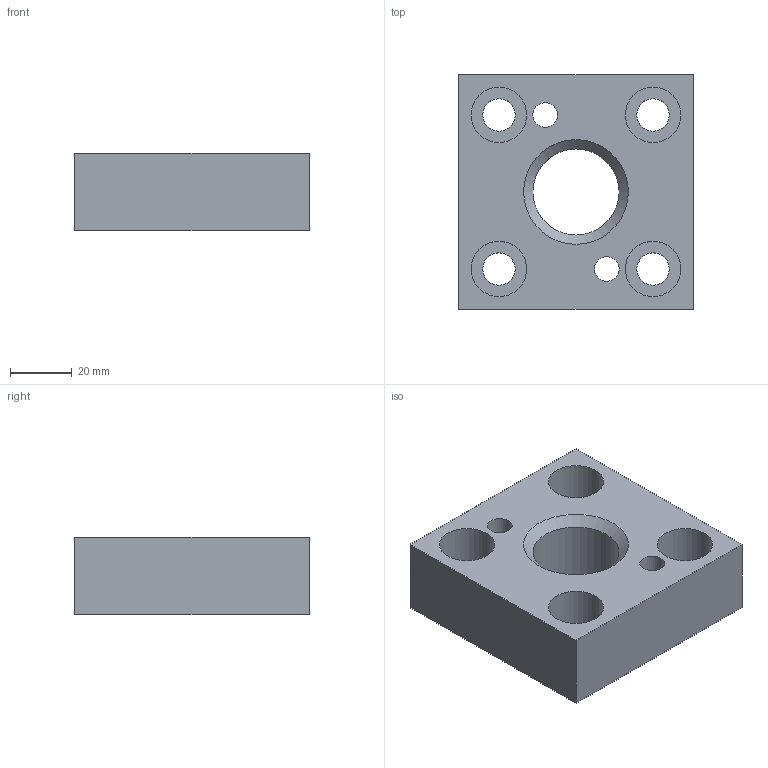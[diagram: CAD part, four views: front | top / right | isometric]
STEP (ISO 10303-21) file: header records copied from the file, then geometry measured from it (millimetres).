
FILE_DESCRIPTION(/* description */ ('LOCKOUT RECEIVER'),/* implementation_level */ '2;1');
FILE_NAME(/* name */ 'D:\5-MISC CAD FILES\BP2_RECEIVERS\BP2NE95.stp',/* time_stamp */ '2020-03-19T13:04:53-04:00',/* author */ ('CMcWilliams'),/* organization */ (''),/* preprocessor_version */ 'ST-DEVELOPER v18',/* originating_system */ 'Autodesk Inventor 2020',/* authorisation */ '');
FILE_SCHEMA (('AUTOMOTIVE_DESIGN { 1 0 10303 214 3 1 1 }'));
Length unit declared in the file: millimetre
Products named in the file (1): BP2NE95
Bounding box: 76.2 x 76.2 x 25 mm (x, y, z)
Volume: 108769.6 mm3; surface area: 25038.6 mm2
Topology: 1 solids, 1 shells, 22 faces, 58 edges, 42 vertices
Faces by surface type: cylinder 11, plane 10, cone 1
Full cylindrical faces by diameter (mm): 8 x2, 10.5 x4, 18 x4, 28 x1
Entity records: 785 total; most frequent: DIRECTION 138, CARTESIAN_POINT 123, ORIENTED_EDGE 116, EDGE_CURVE 58, AXIS2_PLACEMENT_3D 57, VERTEX_POINT 42, EDGE_LOOP 40, CIRCLE 34
